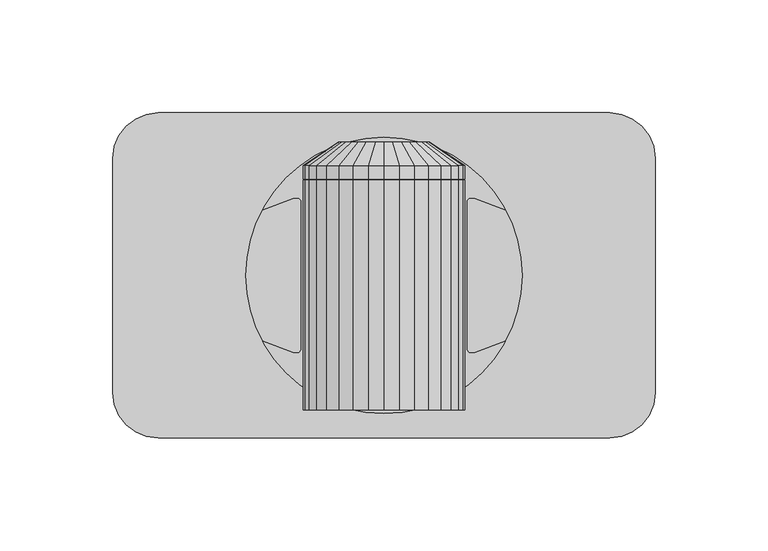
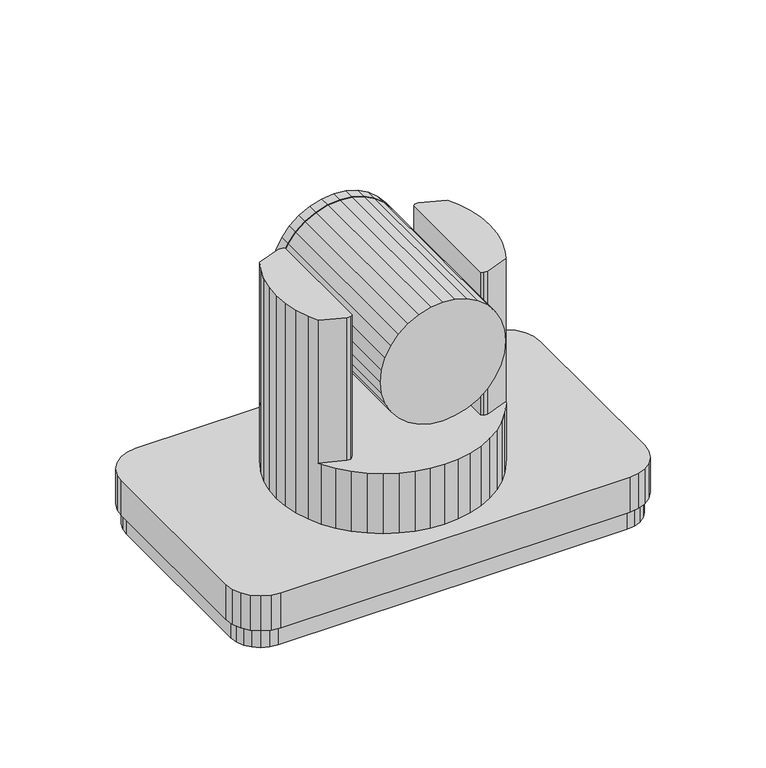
"""IFC4 building model written with IfcOpenShell, lengths in millimetres: proxy geometry, Webcam_01 : webcam_01."""

import ifcopenshell
import ifcopenshell.guid

model = None  # the IFC model being written
_history = None  # IfcOwnerHistory: only IFC2X3 demands one
_inside = {}  # id of a spatial element -> (the spatial element, [elements in it])
_under = {}  # id of a project, library or spatial element -> (it, [spatial elements below it])
_declared = {}  # id of a project -> (the project, [libraries it declares])
_typed = {}  # id of a type object -> (the type object, [elements of that type])
_made_of = {}  # id of a material, layer set ... -> (it, [elements and type objects made of it])


def new_model(schema):
    """Start an empty IFC model of exactly this schema.

    Asked for "IFC4X3", IfcOpenShell would pick the latest addendum, in which some entities
    have other attributes; the version numbers below select the first issue.
    IFC2X3 requires an IfcOwnerHistory on every rooted entity: one is made here for all.
    """
    global model, _history
    if schema == "IFC4X3":
        model = ifcopenshell.file(schema_version=(4, 3, 0, 0))
    else:
        model = ifcopenshell.file(schema=schema)
    _inside.clear()
    _under.clear()
    _declared.clear()
    _typed.clear()
    _made_of.clear()
    _history = None
    if model.schema == "IFC2X3":
        org = make("IfcOrganization", Name="unknown")
        user = make(
            "IfcPersonAndOrganization",
            ThePerson=make("IfcPerson", FamilyName="unknown"),
            TheOrganization=org,
        )
        app = make(
            "IfcApplication",
            ApplicationDeveloper=org,
            Version="unknown",
            ApplicationFullName="unknown",
            ApplicationIdentifier="unknown",
        )
        _history = make(
            "IfcOwnerHistory",
            OwningUser=user,
            OwningApplication=app,
            ChangeAction="ADDED",
            CreationDate=0,
        )
    return model


def make(cls, **values):
    """One entity of the class cls with the attributes given. An attribute that is None is left unset."""
    return model.create_entity(
        cls, **{name: value for name, value in values.items() if value is not None}
    )


def rooted(cls, **values):
    """An entity with a GlobalId (a new one), such as an element, a storey or a relation."""
    return make(cls, GlobalId=ifcopenshell.guid.new(), OwnerHistory=_history, **values)


def si_unit(unit_type, name, prefix=None):
    """IfcSIUnit, for example si_unit("LENGTHUNIT", "METRE", prefix="MILLI")."""
    return make("IfcSIUnit", UnitType=unit_type, Prefix=prefix, Name=name)


def assignment(units):
    """IfcUnitAssignment: the units of a project."""
    return None if units is None else make("IfcUnitAssignment", Units=units)


def point(xyz):
    """IfcCartesianPoint."""
    return None if xyz is None else make("IfcCartesianPoint", Coordinates=xyz)


def direction(xyz):
    """IfcDirection."""
    return None if xyz is None else make("IfcDirection", DirectionRatios=xyz)


def frame(location, z_axis=None, x_axis=None):
    """IfcAxis2Placement3D, a coordinate frame: its origin and axes. An axis left out is left unset."""
    return make(
        "IfcAxis2Placement3D",
        Location=point(location),
        Axis=direction(z_axis),
        RefDirection=direction(x_axis),
    )


def origin():
    """The frame at (0, 0, 0) with its axes left unset."""
    return frame((0.0, 0.0, 0.0))


def place(relative_to, where):
    """IfcLocalPlacement: puts the frame where relative to a parent placement (None: the world)."""
    return make(
        "IfcLocalPlacement", PlacementRelTo=relative_to, RelativePlacement=where
    )


def context(
    kind, dimensions, precision=None, world=None, true_north=None, identifier=None
):
    """IfcGeometricRepresentationContext, for example the 3D "Model" context."""
    return make(
        "IfcGeometricRepresentationContext",
        ContextIdentifier=identifier,
        ContextType=kind,
        CoordinateSpaceDimension=dimensions,
        Precision=precision,
        WorldCoordinateSystem=world,
        TrueNorth=true_north,
    )


def project(units=None, contexts=None):
    """IfcProject with its units and contexts."""
    return rooted(
        "IfcProject",
        Name="project",
        RepresentationContexts=contexts,
        UnitsInContext=assignment(units),
    )


def spatial(cls, under=None, at=None, **own):
    """A site, building, storey or space (cls), placed at a placement, below another one or the project."""
    s = rooted(cls, ObjectPlacement=at, **own)
    if under is not None:
        _under.setdefault(under.id(), (under, []))[1].append(s)
    return s


def polyline(points):
    """IfcPolyline through the points."""
    return make("IfcPolyline", Points=[point(p) for p in points])


def outline(outer, holes=None, kind="AREA"):
    """IfcArbitraryClosedProfileDef: a profile drawn as a closed curve; with holes, ...WithVoids."""
    if holes is None:
        return make("IfcArbitraryClosedProfileDef", ProfileType=kind, OuterCurve=outer)
    return make(
        "IfcArbitraryProfileDefWithVoids",
        ProfileType=kind,
        OuterCurve=outer,
        InnerCurves=holes,
    )


def extrude(swept, where, along, depth):
    """IfcExtrudedAreaSolid: the profile swept, set in the frame where, extruded along a direction by depth."""
    return make(
        "IfcExtrudedAreaSolid",
        SweptArea=swept,
        Position=where,
        ExtrudedDirection=direction(along),
        Depth=depth,
    )


def faces_of(points, faces, orient=None, outer=None):
    """IfcFace entities. A face is a list of loops; a loop is a list of indices into points, from 0.

    orient and outer hold one flag for each loop. By default every Orientation is true, the
    first loop of a face is its IfcFaceOuterBound and the others are IfcFaceBound.
    """
    made = []
    for i, loops in enumerate(faces):
        bounds = []
        for j, loop in enumerate(loops):
            is_outer = j == 0 if outer is None else outer[i][j]
            bounds.append(
                make(
                    "IfcFaceOuterBound" if is_outer else "IfcFaceBound",
                    Bound=make("IfcPolyLoop", Polygon=[points[k] for k in loop]),
                    Orientation=True if orient is None else orient[i][j],
                )
            )
        made.append(make("IfcFace", Bounds=bounds))
    return made


def faceted_brep(points, faces, orient=None, outer=None, voids=None):
    """IfcFacetedBrep: a solid bounded by flat faces; with voids (closed shells), ...WithVoids."""
    shared = [point(p) for p in points]
    hull = make("IfcClosedShell", CfsFaces=faces_of(shared, faces, orient, outer))
    if voids is None:
        return make("IfcFacetedBrep", Outer=hull)
    return make(
        "IfcFacetedBrepWithVoids",
        Outer=hull,
        Voids=[
            make(cls, CfsFaces=faces_of(shared, fs, o, b)) for cls, fs, o, b in voids
        ],
    )


def shape(context_of_items, identifier, shape_type, items):
    """IfcShapeRepresentation: the items that make up one representation, for example the "Body"."""
    return make(
        "IfcShapeRepresentation",
        ContextOfItems=context_of_items,
        RepresentationIdentifier=identifier,
        RepresentationType=shape_type,
        Items=items,
    )


def source(mapping_origin, context_of_items, identifier, shape_type, items):
    """IfcRepresentationMap: a shape defined once, which mapped items show again and again."""
    return make(
        "IfcRepresentationMap",
        MappingOrigin=mapping_origin,
        MappedRepresentation=shape(context_of_items, identifier, shape_type, items),
    )


def transform(
    local_origin,
    x_axis=None,
    y_axis=None,
    z_axis=None,
    scale=None,
    scale2=None,
    scale3=None,
    uniform=True,
):
    """IfcCartesianTransformationOperator3D, or its non-uniform kind. x_axis, y_axis, z_axis: its Axis1, 2, 3."""
    if uniform:
        return make(
            "IfcCartesianTransformationOperator3D",
            Axis1=direction(x_axis),
            Axis2=direction(y_axis),
            LocalOrigin=point(local_origin),
            Scale=scale,
            Axis3=direction(z_axis),
        )
    return make(
        "IfcCartesianTransformationOperator3DnonUniform",
        Axis1=direction(x_axis),
        Axis2=direction(y_axis),
        LocalOrigin=point(local_origin),
        Scale=scale,
        Axis3=direction(z_axis),
        Scale2=scale2,
        Scale3=scale3,
    )


def mapped(mapping_source, mapping_target):
    """IfcMappedItem: shows the shape of a source again, moved by a transform."""
    return make(
        "IfcMappedItem", MappingSource=mapping_source, MappingTarget=mapping_target
    )


def made_of(thing, what):
    """Note that an element or type object is made of a material, layer set ...; save() writes the relation."""
    if what is not None:
        _made_of.setdefault(what.id(), (what, []))[1].append(thing)
    return thing


def element(
    cls,
    number,
    at=None,
    inside=None,
    cuts=None,
    type_object=None,
    material=None,
    context=None,
    identifier="Body",
    shape_type=None,
    held_by="IfcProductDefinitionShape",
    body=None,
    shapes=None,
    **own,
):
    """One element of the class cls, such as IfcWall. Its Tag is "e" and its number.

    at: its placement. inside: the storey or other place that contains it. cuts: it is an
    opening in that element (IfcRelVoidsElement). A single representation is given by context,
    identifier, shape_type and body (its items); several are given by shapes. held_by: the class
    of the entity that holds the representations. save() writes the other relations.
    """
    e = rooted(cls, Tag="e%d" % number, ObjectPlacement=at, **own)
    if body is not None:
        shapes = [shape(context, identifier, shape_type, body)]
    if shapes is not None:
        e.Representation = make(held_by, Representations=shapes)
    if inside is not None:
        _inside.setdefault(inside.id(), (inside, []))[1].append(e)
    if cuts is not None:
        rooted(
            "IfcRelVoidsElement", RelatingBuildingElement=cuts, RelatedOpeningElement=e
        )
    if type_object is not None:
        _typed.setdefault(type_object.id(), (type_object, []))[1].append(e)
    return made_of(e, material)


def aggregate(whole, parts):
    """IfcRelAggregates: a whole, such as a stair, and the parts it consists of."""
    return rooted("IfcRelAggregates", RelatingObject=whole, RelatedObjects=parts)


def save(model, path):
    """Write the relations noted so far, then the file.

    IfcRelAggregates (storeys below a building ...), IfcRelContainedInSpatialStructure (elements
    in a storey), IfcRelDefinesByType, IfcRelAssociatesMaterial and IfcRelDeclares: one each for
    every whole, place, type object, material and project.
    """
    for whole, parts in _under.values():
        aggregate(whole, parts)
    for where, things in _inside.values():
        rooted(
            "IfcRelContainedInSpatialStructure",
            RelatedElements=things,
            RelatingStructure=where,
        )
    for kind, things in _typed.values():
        rooted("IfcRelDefinesByType", RelatedObjects=things, RelatingType=kind)
    for what, things in _made_of.values():
        rooted("IfcRelAssociatesMaterial", RelatedObjects=things, RelatingMaterial=what)
    for by, libraries in _declared.values():
        rooted("IfcRelDeclares", RelatingContext=by, RelatedDefinitions=libraries)
    model.write(path)


def generic_models_21183628(model_context):
    return source(origin(), model_context, "Body", "SolidModel", [
        faceted_brep([(-6.9944263, -59.6000433, 1221.5456778), (-13.7200607, -59.6000433, 1219.5054789), (-19.9184409, -59.6000433, 1216.1923757), (-25.3513665, -59.6000433, 1211.7336888), (-29.8100534, -59.6000433, 1206.3007632), (-33.1231566, -59.6000433, 1200.102383), (-35.1633555, -59.6000433, 1193.3767486), (-35.8522464, -59.6000433, 1186.3823223), (-35.1633555, -59.6000433, 1179.387896), (-33.1231566, -59.6000433, 1172.6622616), (-29.8100534, -59.6000433, 1166.4638814), (-25.3513665, -59.6000433, 1161.0309558), (-19.9184409, -59.6000433, 1156.5722689), (-13.7200607, -59.6000433, 1153.2591657), (-6.9944263, -59.6000433, 1151.2189668), (0.0, -59.6000433, 1150.530076), (6.9944263, -59.6000433, 1151.2189668), (13.7200607, -59.6000433, 1153.2591657), (19.9184409, -59.6000433, 1156.5722689), (25.3513665, -59.6000433, 1161.0309558), (29.8100534, -59.6000433, 1166.4638814), (33.1231566, -59.6000433, 1172.6622616), (35.1633555, -59.6000433, 1179.387896), (35.8522464, -59.6000433, 1186.3823223), (35.1633555, -59.6000433, 1193.3767486), (33.1231566, -59.6000433, 1200.102383), (29.8100534, -59.6000433, 1206.3007632), (25.3513665, -59.6000433, 1211.7336888), (19.9184409, -59.6000433, 1216.1923757), (13.7200607, -59.6000433, 1219.5054789), (6.9944263, -59.6000433, 1221.5456778), (0.0, -59.6000433, 1222.2345687), (-6.9944263, 42.1014977, 1221.5456778), (0.0, 42.1014977, 1222.2345687), (6.9944263, 42.1014977, 1221.5456778), (13.7200607, 42.1014977, 1219.5054789), (19.9184409, 42.1014977, 1216.1923757), (25.3513665, 42.1014977, 1211.7336888), (29.8100534, 42.1014977, 1206.3007632), (33.1231566, 42.1014977, 1200.102383), (35.1633555, 42.1014977, 1193.3767486), (35.8522464, 42.1014977, 1186.3823223), (35.1633555, 42.1014977, 1179.387896), (33.1231566, 42.1014977, 1172.6622616), (29.8100534, 42.1014977, 1166.4638814), (25.3513665, 42.1014977, 1161.0309558), (19.9184409, 42.1014977, 1156.5722689), (13.7200607, 42.1014977, 1153.2591657), (6.9944263, 42.1014977, 1151.2189668), (0.0, 42.1014977, 1150.530076), (-6.9944263, 42.1014977, 1151.2189668), (-13.7200607, 42.1014977, 1153.2591657), (-19.9184409, 42.1014977, 1156.5722689), (-25.3513665, 42.1014977, 1161.0309558), (-29.8100534, 42.1014977, 1166.4638814), (-33.1231566, 42.1014977, 1172.6622616), (-35.1633555, 42.1014977, 1179.387896), (-35.8522464, 42.1014977, 1186.3823223), (-35.1633555, 42.1014977, 1193.3767486), (-33.1231566, 42.1014977, 1200.102383), (-29.8100534, 42.1014977, 1206.3007632), (-25.3513665, 42.1014977, 1211.7336888), (-19.9184409, 42.1014977, 1216.1923757), (-13.7200607, 42.1014977, 1219.5054789)], [[[0, 1, 2, 3, 4, 5, 6, 7, 8, 9, 10, 11, 12, 13, 14, 15, 16, 17, 18, 19, 20, 21, 22, 23, 24, 25, 26, 27, 28, 29, 30, 31]], [[32, 33, 34, 35, 36, 37, 38, 39, 40, 41, 42, 43, 44, 45, 46, 47, 48, 49, 50, 51, 52, 53, 54, 55, 56, 57, 58, 59, 60, 61, 62, 63]], [[1, 0, 32, 63]], [[2, 1, 63, 62]], [[3, 2, 62, 61]], [[4, 3, 61, 60]], [[5, 4, 60, 59]], [[6, 5, 59, 58]], [[7, 6, 58, 57]], [[8, 7, 57, 56]], [[9, 8, 56, 55]], [[10, 9, 55, 54]], [[11, 10, 54, 53]], [[12, 11, 53, 52]], [[13, 12, 52, 51]], [[14, 13, 51, 50]], [[15, 14, 50, 49]], [[16, 15, 49, 48]], [[17, 16, 48, 47]], [[18, 17, 47, 46]], [[19, 18, 46, 45]], [[20, 19, 45, 44]], [[21, 20, 44, 43]], [[22, 21, 43, 42]], [[23, 22, 42, 41]], [[24, 23, 41, 40]], [[25, 24, 40, 39]], [[26, 25, 39, 38]], [[27, 26, 38, 37]], [[28, 27, 37, 36]], [[29, 28, 36, 35]], [[30, 29, 35, 34]], [[31, 30, 34, 33]], [[0, 31, 33, 32]]]),
        faceted_brep([(-3.9695298, 59.0764523, 1206.338496), (0.0, 59.0764523, 1206.7294606), (3.9695298, 59.0764523, 1206.338496), (7.7865127, 59.0764523, 1205.1806269), (11.3042644, 59.0764523, 1203.3003495), (14.3875995, 59.0764523, 1200.7699218), (16.9180272, 59.0764523, 1197.6865867), (18.7983046, 59.0764523, 1194.168835), (19.9561737, 59.0764523, 1190.3518521), (20.3471383, 59.0764523, 1186.3823223), (19.9561737, 59.0764523, 1182.4127925), (18.7983046, 59.0764523, 1178.5958096), (16.9180272, 59.0764523, 1175.0780579), (14.3875995, 59.0764523, 1171.9947228), (11.3042644, 59.0764523, 1169.4642951), (7.7865127, 59.0764523, 1167.5840177), (3.9695298, 59.0764523, 1166.4261486), (0.0, 59.0764523, 1166.035184), (-3.9695298, 59.0764523, 1166.4261486), (-7.7865127, 59.0764523, 1167.5840177), (-11.3042644, 59.0764523, 1169.4642951), (-14.3875995, 59.0764523, 1171.9947228), (-16.9180272, 59.0764523, 1175.0780579), (-18.7983046, 59.0764523, 1178.5958096), (-19.9561737, 59.0764523, 1182.4127925), (-20.3471383, 59.0764523, 1186.3823223), (-19.9561737, 59.0764523, 1190.3518521), (-18.7983046, 59.0764523, 1194.168835), (-16.9180272, 59.0764523, 1197.6865867), (-14.3875995, 59.0764523, 1200.7699218), (-11.3042644, 59.0764523, 1203.3003495), (-7.7865127, 59.0764523, 1205.1806269), (-13.7200607, 48.5218334, 1219.5054789), (-6.9944263, 48.5218334, 1221.5456778), (-19.9184409, 48.5218334, 1216.1923757), (-25.3513665, 48.5218334, 1211.7336888), (-29.8100534, 48.5218334, 1206.3007632), (-33.1231566, 48.5218334, 1200.102383), (-35.1633555, 48.5218334, 1193.3767486), (-35.8522464, 48.5218334, 1186.3823223), (-35.1633555, 48.5218334, 1179.387896), (-33.1231566, 48.5218334, 1172.6622616), (-29.8100534, 48.5218334, 1166.4638814), (-25.3513665, 48.5218334, 1161.0309558), (-19.9184409, 48.5218334, 1156.5722689), (-13.7200607, 48.5218334, 1153.2591657), (-6.9944263, 48.5218334, 1151.2189668), (0.0, 48.5218334, 1150.530076), (6.9944263, 48.5218334, 1151.2189668), (13.7200607, 48.5218334, 1153.2591657), (19.9184409, 48.5218334, 1156.5722689), (25.3513665, 48.5218334, 1161.0309558), (29.8100534, 48.5218334, 1166.4638814), (33.1231566, 48.5218334, 1172.6622616), (35.1633555, 48.5218334, 1179.387896), (35.8522464, 48.5218334, 1186.3823223), (35.1633555, 48.5218334, 1193.3767486), (33.1231566, 48.5218334, 1200.102383), (29.8100534, 48.5218334, 1206.3007632), (25.3513665, 48.5218334, 1211.7336888), (19.9184409, 48.5218334, 1216.1923757), (13.7200607, 48.5218334, 1219.5054789), (6.9944263, 48.5218334, 1221.5456778), (0.0, 48.5218334, 1222.2345687), (-6.9944263, 42.6015282, 1221.5456778), (-13.7200607, 42.6015282, 1219.5054789), (-19.9184409, 42.6015282, 1216.1923757), (-25.3513665, 42.6015282, 1211.7336888), (-29.8100534, 42.6015282, 1206.3007632), (-33.1231566, 42.6015282, 1200.102383), (-35.1633555, 42.6015282, 1193.3767486), (-35.8522464, 42.6015282, 1186.3823223), (-35.1633555, 42.6015282, 1179.387896), (-33.1231566, 42.6015282, 1172.6622616), (-29.8100534, 42.6015282, 1166.4638814), (-25.3513665, 42.6015282, 1161.0309558), (-19.9184409, 42.6015282, 1156.5722689), (-13.7200607, 42.6015282, 1153.2591657), (-6.9944263, 42.6015282, 1151.2189668), (0.0, 42.6015282, 1150.530076), (6.9944263, 42.6015282, 1151.2189668), (13.7200607, 42.6015282, 1153.2591657), (19.9184409, 42.6015282, 1156.5722689), (25.3513665, 42.6015282, 1161.0309558), (29.8100534, 42.6015282, 1166.4638814), (33.1231566, 42.6015282, 1172.6622616), (35.1633555, 42.6015282, 1179.387896), (35.8522464, 42.6015282, 1186.3823223), (35.1633555, 42.6015282, 1193.3767486), (33.1231566, 42.6015282, 1200.102383), (29.8100534, 42.6015282, 1206.3007632), (25.3513665, 42.6015282, 1211.7336888), (19.9184409, 42.6015282, 1216.1923757), (13.7200607, 42.6015282, 1219.5054789), (6.9944263, 42.6015282, 1221.5456778), (0.0, 42.6015282, 1222.2345687)], [[[0, 1, 2, 3, 4, 5, 6, 7, 8, 9, 10, 11, 12, 13, 14, 15, 16, 17, 18, 19, 20, 21, 22, 23, 24, 25, 26, 27, 28, 29, 30, 31]], [[0, 31, 32, 33]], [[31, 30, 34, 32]], [[30, 29, 35, 34]], [[29, 28, 36, 35]], [[28, 27, 37, 36]], [[27, 26, 38, 37]], [[26, 25, 39, 38]], [[25, 24, 40, 39]], [[24, 23, 41, 40]], [[23, 22, 42, 41]], [[22, 21, 43, 42]], [[21, 20, 44, 43]], [[20, 19, 45, 44]], [[19, 18, 46, 45]], [[18, 17, 47, 46]], [[17, 16, 48, 47]], [[16, 15, 49, 48]], [[15, 14, 50, 49]], [[14, 13, 51, 50]], [[13, 12, 52, 51]], [[12, 11, 53, 52]], [[11, 10, 54, 53]], [[10, 9, 55, 54]], [[9, 8, 56, 55]], [[8, 7, 57, 56]], [[7, 6, 58, 57]], [[6, 5, 59, 58]], [[5, 4, 60, 59]], [[4, 3, 61, 60]], [[3, 2, 62, 61]], [[2, 1, 63, 62]], [[1, 0, 33, 63]], [[64, 65, 66, 67, 68, 69, 70, 71, 72, 73, 74, 75, 76, 77, 78, 79, 80, 81, 82, 83, 84, 85, 86, 87, 88, 89, 90, 91, 92, 93, 94, 95]], [[65, 64, 33, 32]], [[66, 65, 32, 34]], [[67, 66, 34, 35]], [[68, 67, 35, 36]], [[69, 68, 36, 37]], [[70, 69, 37, 38]], [[71, 70, 38, 39]], [[72, 71, 39, 40]], [[73, 72, 40, 41]], [[74, 73, 41, 42]], [[75, 74, 42, 43]], [[76, 75, 43, 44]], [[77, 76, 44, 45]], [[78, 77, 45, 46]], [[79, 78, 46, 47]], [[80, 79, 47, 48]], [[81, 80, 48, 49]], [[82, 81, 49, 50]], [[83, 82, 50, 51]], [[84, 83, 51, 52]], [[85, 84, 52, 53]], [[86, 85, 53, 54]], [[87, 86, 54, 55]], [[88, 87, 55, 56]], [[89, 88, 56, 57]], [[90, 89, 57, 58]], [[91, 90, 58, 59]], [[92, 91, 59, 60]], [[93, 92, 60, 61]], [[94, 93, 61, 62]], [[95, 94, 62, 63]], [[64, 95, 63, 33]]]),
        faceted_brep([(36.8736553, 33.0532575, 1211.4539337), (36.8736553, -33.0532575, 1211.4539337), (37.8509045, -34.0665174, 1211.4539337), (40.1326198, -34.0664714, 1211.4539337), (53.7461583, -28.999171, 1211.4539337), (56.5048504, -23.4050846, 1211.4539337), (59.0764141, -15.8294773, 1211.4539337), (60.6371593, -7.9830647, 1211.4539337), (61.1603832, -4.77e-05, 1211.4539337), (60.6371593, 7.9830456, 1211.4539337), (59.0764141, 15.8294582, 1211.4539337), (56.5048504, 23.4050655, 1211.4539337), (53.7461109, 28.9991886, 1211.4539337), (40.1326198, 34.0664714, 1211.4539337), (37.8509045, 34.0665174, 1211.4539337), (36.8736553, 33.0532575, 1125.0), (36.8736553, -33.0532575, 1125.0), (37.8509045, -34.0665174, 1125.0), (40.1326198, -34.0664714, 1125.0), (53.7461583, -28.999171, 1125.0), (52.9664516, -30.5802631, 1125.0), (52.9664516, -30.5802631, 1088.8998413), (56.5048504, -23.4050846, 1088.8998413), (59.0764141, -15.8294773, 1088.8998413), (60.6371593, -7.9830647, 1088.8998413), (61.1603832, -4.77e-05, 1088.8998413), (60.6371593, 7.9830456, 1088.8998413), (59.0764141, 15.8294582, 1088.8998413), (56.5048504, 23.4050655, 1088.8998413), (52.9664516, 30.5801678, 1088.8998413), (52.9664516, 30.5801678, 1125.0), (53.7461109, 28.9991886, 1125.0), (40.1326198, 34.0664714, 1125.0), (37.8509045, 34.0665174, 1125.0), (-43.2470036, 43.2469082, 1125.0), (-48.5218906, 37.2321224, 1125.0), (-52.966547, 30.5802059, 1125.0), (-53.7462303, 28.9991442, 1125.0), (-40.1326198, 34.0664714, 1125.0), (-37.8509045, 34.0665174, 1125.0), (-36.8736553, 33.0532575, 1125.0), (-36.8736553, -33.0532575, 1125.0), (-37.8509045, -34.0665174, 1125.0), (-40.1326198, -34.0664714, 1125.0), (-53.7462519, -28.9991361, 1125.0), (-52.966547, -30.580225, 1125.0), (-48.5218906, -37.2321415, 1125.0), (-43.2470036, -43.2470036, 1125.0), (-37.2321796, -48.5218906, 1125.0), (-30.5802631, -52.966547, 1125.0), (-23.4051228, -56.5049458, 1125.0), (-15.8295155, -59.0765095, 1125.0), (-7.9831028, -60.6372547, 1125.0), (-4.77e-05, -61.1604404, 1125.0), (7.9830074, -60.6372166, 1125.0), (15.8294582, -59.0764713, 1125.0), (23.4050655, -56.5049458, 1125.0), (30.5802059, -52.966547, 1125.0), (37.2320461, -48.5218525, 1125.0), (43.2469082, -43.2470036, 1125.0), (48.5217953, -37.2321796, 1125.0), (48.5217953, 37.2320843, 1125.0), (43.2469463, 43.2469082, 1125.0), (37.2320843, 48.5218334, 1125.0), (30.5802059, 52.9664516, 1125.0), (23.4050655, 56.5048504, 1125.0), (15.8294582, 59.0764523, 1125.0), (7.9830074, 60.6371975, 1125.0), (-4.77e-05, 61.1604214, 1125.0), (-7.9831028, 60.6371593, 1125.0), (-15.8295155, 59.0764141, 1125.0), (-23.4051228, 56.5048504, 1125.0), (-30.5803013, 52.9664516, 1125.0), (-37.2322178, 48.5217953, 1125.0), (-43.2470036, 43.2469082, 1088.8998413), (-37.2322178, 48.5217953, 1088.8998413), (-30.5803013, 52.9664516, 1088.8998413), (-23.4051228, 56.5048504, 1088.8998413), (-15.8295155, 59.0764141, 1088.8998413), (-7.9831028, 60.6371593, 1088.8998413), (-4.77e-05, 61.1604214, 1088.8998413), (7.9830074, 60.6371975, 1088.8998413), (15.8294582, 59.0764523, 1088.8998413), (23.4050655, 56.5048504, 1088.8998413), (30.5802059, 52.9664516, 1088.8998413), (37.2320843, 48.5218334, 1088.8998413), (43.2469463, 43.2469082, 1088.8998413), (48.5217953, 37.2320843, 1088.8998413), (48.5217953, -37.2321796, 1088.8998413), (43.2469082, -43.2470036, 1088.8998413), (37.2320461, -48.5218525, 1088.8998413), (30.5802059, -52.966547, 1088.8998413), (23.4050655, -56.5049458, 1088.8998413), (15.8294582, -59.0764713, 1088.8998413), (7.9830074, -60.6372166, 1088.8998413), (-4.77e-05, -61.1604404, 1088.8998413), (-7.9831028, -60.6372547, 1088.8998413), (-15.8295155, -59.0765095, 1088.8998413), (-23.4051228, -56.5049458, 1088.8998413), (-30.5802631, -52.966547, 1088.8998413), (-37.2321796, -48.5218906, 1088.8998413), (-43.2470036, -43.2470036, 1088.8998413), (-48.5218906, -37.2321415, 1088.8998413), (-52.966547, -30.580225, 1088.8998413), (-56.5049076, -23.4051228, 1088.8998413), (-59.0764713, -15.8295155, 1088.8998413), (-60.6372547, -7.9831028, 1088.8998413), (-61.1604786, -9.5e-06, 1088.8998413), (-60.6372547, 7.9830074, 1088.8998413), (-59.0764713, 15.8294201, 1088.8998413), (-56.5049076, 23.4050274, 1088.8998413), (-52.966547, 30.5802059, 1088.8998413), (-48.5218906, 37.2321224, 1088.8998413), (-56.5048813, 23.4050808, 1211.4539337), (-53.7461893, 28.9992273, 1211.4539337), (-59.0764538, 15.8294717, 1211.4539337), (-60.6372438, 7.9830624, 1211.4539337), (-61.1604807, -4.13e-05, 1211.4539337), (-60.6372568, -7.983071, 1211.4539337), (-59.0764765, -15.8294897, 1211.4539337), (-56.5049133, -23.405106, 1211.4539337), (-53.7462198, -28.9992013, 1211.4539337), (-36.8736553, 33.0532575, 1211.4539337), (-37.8509045, 34.0665174, 1211.4539337), (-40.1326198, 34.0664714, 1211.4539337), (-40.1326198, -34.0664714, 1211.4539337), (-37.8509045, -34.0665174, 1211.4539337), (-36.8736553, -33.0532575, 1211.4539337)], [[[0, 1, 2, 3, 4, 5, 6, 7, 8, 9, 10, 11, 12, 13, 14]], [[1, 0, 15, 16]], [[2, 1, 16, 17]], [[3, 2, 17, 18]], [[4, 3, 18, 19]], [[5, 4, 19, 20, 21, 22]], [[6, 5, 22, 23]], [[7, 6, 23, 24]], [[8, 7, 24, 25]], [[9, 8, 25, 26]], [[10, 9, 26, 27]], [[11, 10, 27, 28]], [[12, 11, 28, 29, 30, 31]], [[13, 12, 31, 32]], [[14, 13, 32, 33]], [[0, 14, 33, 15]], [[34, 35, 36, 37, 38, 39, 40, 41, 42, 43, 44, 45, 46, 47, 48, 49, 50, 51, 52, 53, 54, 55, 56, 57, 58, 59, 60, 20, 19, 18, 17, 16, 15, 33, 32, 31, 30, 61, 62, 63, 64, 65, 66, 67, 68, 69, 70, 71, 72, 73]], [[74, 75, 76, 77, 78, 79, 80, 81, 82, 83, 84, 85, 86, 87, 29, 28, 27, 26, 25, 24, 23, 22, 21, 88, 89, 90, 91, 92, 93, 94, 95, 96, 97, 98, 99, 100, 101, 102, 103, 104, 105, 106, 107, 108, 109, 110, 111, 112]], [[35, 34, 74, 112]], [[36, 35, 112, 111]], [[111, 110, 113, 114, 37, 36]], [[113, 110, 109, 115]], [[115, 109, 108, 116]], [[116, 108, 107, 117]], [[117, 107, 106, 118]], [[118, 106, 105, 119]], [[119, 105, 104, 120]], [[120, 104, 103, 45, 44, 121]], [[46, 45, 103, 102]], [[47, 46, 102, 101]], [[48, 47, 101, 100]], [[49, 48, 100, 99]], [[50, 49, 99, 98]], [[51, 50, 98, 97]], [[52, 51, 97, 96]], [[53, 52, 96, 95]], [[54, 53, 95, 94]], [[55, 54, 94, 93]], [[56, 55, 93, 92]], [[57, 56, 92, 91]], [[58, 57, 91, 90]], [[59, 58, 90, 89]], [[60, 59, 89, 88]], [[20, 60, 88, 21]], [[61, 30, 29, 87]], [[62, 61, 87, 86]], [[63, 62, 86, 85]], [[64, 63, 85, 84]], [[65, 64, 84, 83]], [[66, 65, 83, 82]], [[67, 66, 82, 81]], [[68, 67, 81, 80]], [[69, 68, 80, 79]], [[70, 69, 79, 78]], [[71, 70, 78, 77]], [[72, 71, 77, 76]], [[73, 72, 76, 75]], [[34, 73, 75, 74]], [[122, 123, 124, 114, 113, 115, 116, 117, 118, 119, 120, 121, 125, 126, 127]], [[122, 127, 41, 40]], [[127, 126, 42, 41]], [[126, 125, 43, 42]], [[125, 121, 44, 43]], [[114, 124, 38, 37]], [[124, 123, 39, 38]], [[123, 122, 40, 39]]]),
        extrude(outline(polyline([(99.9977652, 72.0005141), (105.1778316, 71.3185406), (110.0009441, 69.3207455), (114.1426754, 66.1427212), (117.320776, 62.0009518), (119.3185329, 57.1778011), (119.9999905, 52.0019436), (119.9999905, -52.0019436), (119.3185329, -57.1778011), (117.320776, -62.0009518), (114.1426754, -66.1427212), (110.0009441, -69.3207455), (105.1778316, -71.3185406), (100.0083892, -71.9991154), (-99.9970682, -72.0006058), (-105.1778316, -71.3185406), (-110.0009441, -69.3207455), (-114.1426754, -66.1427212), (-117.320776, -62.0009518), (-119.3185329, -57.1778011), (-120.0000286, -52.0016539), (-120.0000286, 52.0016539), (-119.3185329, 57.1778011), (-117.320776, 62.0009518), (-114.1426754, 66.1427212), (-110.0009441, 69.3207455), (-105.1778316, 71.3185406), (-100.0061833, 71.9994058), (99.9977652, 72.0005141)])), frame((0.0, 0.0, 1067.7090454), z_axis=(0.0, 0.0, 1.0), x_axis=(1.0, 0.0, 0.0)), (0.0, 0.0, 1.0), 21.1907959),
        extrude(outline(polyline([(99.8146725, 69.1418743), (104.4384289, 68.5576916), (108.5652447, 66.8501568), (112.1169186, 64.12673), (114.8424816, 60.5772305), (116.5561962, 56.4437389), (117.1413708, 51.8207455), (117.1425915, -51.8097782), (116.5582943, -56.4339542), (114.8506069, -60.5599689), (112.1287441, -64.1119099), (108.5809994, -66.8381596), (104.4487667, -68.5530186), (99.8268032, -69.1404819), (-99.8147297, -69.1419697), (-104.4382191, -68.5575962), (-108.5642719, -66.8488789), (-112.1161747, -64.1258335), (-114.8417759, -60.5768299), (-116.5554905, -56.4434528), (-117.141428, -51.8206501), (-117.1426487, 51.8097973), (-116.559248, 56.4345455), (-114.85322, 60.5616665), (-112.1312046, 64.1141796), (-108.5826969, 66.8408871), (-104.4499302, 68.5556698), (-99.82728, 69.1407681), (99.8146725, 69.1418743)])), frame((0.0, 0.0, 1055.5502319), z_axis=(0.0, 0.0, 1.0), x_axis=(1.0, 0.0, 0.0)), (0.0, 0.0, 1.0), 12.1588135),
        extrude(outline(polyline([(96.6137028, 32.609489), (91.8955708, 31.6710353), (87.177515, 32.609489), (83.1776524, 35.2821422), (80.5050373, 39.2819667), (79.5665836, 44.0000629), (80.5050755, 48.7181568), (83.1776524, 52.7179432), (87.1774769, 55.3905582), (91.8956089, 56.3290501), (96.6137028, 55.3905964), (100.6135273, 52.7179813), (103.2860661, 48.718195), (104.2246342, 44.0000248), (103.2861423, 39.2819285), (100.6134892, 35.2821422), (96.6137028, 32.609489)])), frame((0.0, 0.0, 1050.8992767), z_axis=(0.0, 0.0, 1.0), x_axis=(1.0, 0.0, 0.0)), (0.0, 0.0, 1.0), 4.6509552),
        extrude(outline(polyline([(96.6137028, -32.609489), (100.6134892, -35.2821422), (103.2861423, -39.2819285), (104.2246342, -44.0000248), (103.2860661, -48.718195), (100.6135273, -52.7179813), (96.6137028, -55.3905964), (91.8956089, -56.3290501), (87.1774769, -55.3905582), (83.1776524, -52.7179432), (80.5050755, -48.7181568), (79.5665836, -44.0000629), (80.5050373, -39.2819667), (83.1776524, -35.2821422), (87.177515, -32.609489), (91.8955708, -31.6710353), (96.6137028, -32.609489)])), frame((0.0, 0.0, 1050.8992767), z_axis=(0.0, 0.0, 1.0), x_axis=(1.0, 0.0, 0.0)), (0.0, 0.0, 1.0), 4.6509552),
        extrude(outline(polyline([(-96.6137028, 32.609489), (-100.6134892, 35.2821422), (-103.2861423, 39.2819285), (-104.2246342, 44.0000248), (-103.2860661, 48.718195), (-100.6135273, 52.7179813), (-96.6137028, 55.3905964), (-91.8956089, 56.3290501), (-87.1774769, 55.3905582), (-83.1776524, 52.7179432), (-80.5050755, 48.7181568), (-79.5665836, 44.0000629), (-80.5050373, 39.2819667), (-83.1776524, 35.2821422), (-87.177515, 32.609489), (-91.8955708, 31.6710353), (-96.6137028, 32.609489)])), frame((0.0, 0.0, 1050.8992767), z_axis=(0.0, 0.0, 1.0), x_axis=(1.0, 0.0, 0.0)), (0.0, 0.0, 1.0), 4.6509552),
        extrude(outline(polyline([(-96.6137028, -32.609489), (-91.8955708, -31.6710353), (-87.177515, -32.609489), (-83.1776524, -35.2821422), (-80.5050373, -39.2819667), (-79.5665836, -44.0000629), (-80.5050755, -48.7181568), (-83.1776524, -52.7179432), (-87.1774769, -55.3905582), (-91.8956089, -56.3290501), (-96.6137028, -55.3905964), (-100.6135273, -52.7179813), (-103.2860661, -48.718195), (-104.2246342, -44.0000248), (-103.2861423, -39.2819285), (-100.6134892, -35.2821422), (-96.6137028, -32.609489)])), frame((0.0, 0.0, 1050.8992767), z_axis=(0.0, 0.0, 1.0), x_axis=(1.0, 0.0, 0.0)), (0.0, 0.0, 1.0), 4.6509552),
    ])


if __name__ == "__main__":
    model = new_model("IFC4")
    model_context = context("Model", 3, world=origin())
    ifc_project = project(units=[si_unit("LENGTHUNIT", "METRE", prefix="MILLI")], contexts=[model_context])
    site = spatial("IfcSite", under=ifc_project)
    building = spatial("IfcBuilding", under=site)
    placement = place(None, origin())
    generic_models_shape = generic_models_21183628(model_context)
    element("IfcBuildingElementProxy", 1, Name="Webcam_01 : webcam_01", ObjectType="Webcam_01 : webcam_01", at=placement, inside=building, context=model_context, shape_type="MappedRepresentation", body=[
        mapped(generic_models_shape, transform((0.0, 0.0, 0.0), x_axis=(1.0, 0.0, 0.0), y_axis=(0.0, 1.0, 0.0), z_axis=(0.0, 0.0, 1.0))),
    ])
    save(model, "model.ifc")
